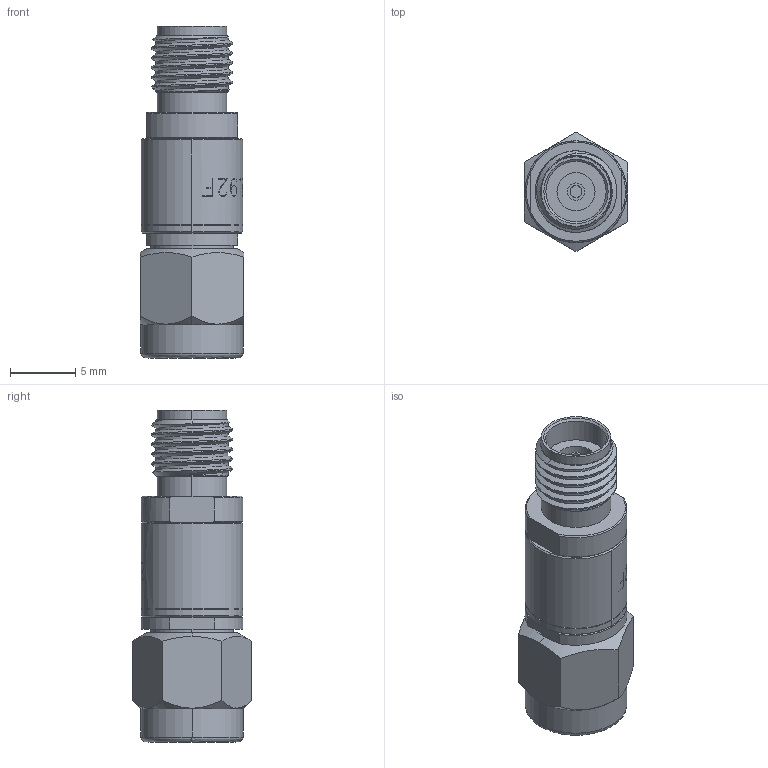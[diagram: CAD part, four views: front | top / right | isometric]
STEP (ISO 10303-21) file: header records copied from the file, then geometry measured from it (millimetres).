
FILE_DESCRIPTION (( 'STEP AP203' ), '1' );
FILE_NAME ('7934000K001-802-Cst.STEP', '2020-10-30T17:46:20', ( '' ), ( '' ), 'SwSTEP 2.0', 'SolidWorks 2019', '' );
FILE_SCHEMA (( 'CONFIG_CONTROL_DESIGN' ));
Length unit declared in the file: inch
Products named in the file (1): 7934000K001-802-Cst
Bounding box: 7.92 x 9.15 x 25.46 mm (x, y, z)
Volume: 897.5 mm3; surface area: 1249.3 mm2
Topology: 1 solids, 1 shells, 414 faces, 1116 edges, 735 vertices
Faces by surface type: bspline 170, plane 127, cylinder 85, cone 32
Entity records: 17730 total; most frequent: CARTESIAN_POINT 8383, ORIENTED_EDGE 2228, DIRECTION 1437, EDGE_CURVE 1114, VERTEX_POINT 735, AXIS2_PLACEMENT_3D 491, LINE 455, VECTOR 455
